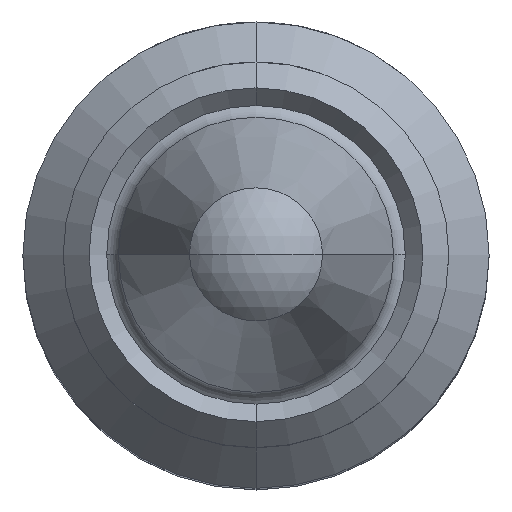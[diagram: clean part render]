
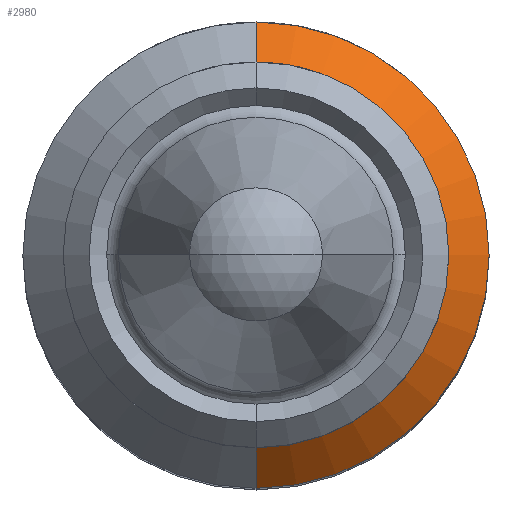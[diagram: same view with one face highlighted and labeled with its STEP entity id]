
A CAD part, top view. The second image highlights one B-rep face of the part: STEP entity #2980.
In plain terms, the highlighted conical face has half-angle 45 degrees and reference radius 2.38 mm.
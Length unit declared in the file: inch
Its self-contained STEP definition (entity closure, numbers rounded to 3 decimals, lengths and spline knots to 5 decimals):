
#1598 = AXIS2_PLACEMENT_3D ( 'NONE', #11413, #11414, #11415 ) ;
#2980 = ADVANCED_FACE ( 'NONE', ( #12846 ), #12855, .T. ) ;
#5677 = EDGE_LOOP ( 'NONE', ( #10862, #10861, #10860, #10859 ) ) ;
#5906 = VERTEX_POINT ( 'NONE', #9697 ) ;
#5988 = VERTEX_POINT ( 'NONE', #9729 ) ;
#5998 = VERTEX_POINT ( 'NONE', #9739 ) ;
#6000 = VERTEX_POINT ( 'NONE', #9741 ) ;
#7427 = EDGE_CURVE ( 'NONE', #6000, #5906, #12350, .T. ) ;
#7428 = EDGE_CURVE ( 'NONE', #5998, #5906, #12347, .T. ) ;
#7429 = EDGE_CURVE ( 'NONE', #5988, #5998, #12351, .T. ) ;
#7433 = EDGE_CURVE ( 'NONE', #5988, #6000, #12358, .T. ) ;
#9433 = AXIS2_PLACEMENT_3D ( 'NONE', #13139, #13140, #13149 ) ;
#9697 = CARTESIAN_POINT ( 'NONE',  ( 0., 0.0937, -0.062 ) ) ;
#9729 = CARTESIAN_POINT ( 'NONE',  ( 0., -0.0775, -0.0458 ) ) ;
#9739 = CARTESIAN_POINT ( 'NONE',  ( 0., -0.0937, -0.062 ) ) ;
#9741 = CARTESIAN_POINT ( 'NONE',  ( 0., 0.0775, -0.0458 ) ) ;
#10859 = ORIENTED_EDGE ( 'NONE', *, *, #7427, .F. ) ;
#10860 = ORIENTED_EDGE ( 'NONE', *, *, #7428, .T. ) ;
#10861 = ORIENTED_EDGE ( 'NONE', *, *, #7429, .T. ) ;
#10862 = ORIENTED_EDGE ( 'NONE', *, *, #7433, .F. ) ;
#11402 = CARTESIAN_POINT ( 'NONE',  ( 0., 0.0937, -0.062 ) ) ;
#11403 = DIRECTION ( 'NONE',  ( 0., 0.707, -0.707 ) ) ;
#11410 = DIRECTION ( 'NONE',  ( 0., -0.707, -0.707 ) ) ;
#11412 = CARTESIAN_POINT ( 'NONE',  ( 0., -0.0937, -0.062 ) ) ;
#11413 = CARTESIAN_POINT ( 'NONE',  ( 0., 0., -0.062 ) ) ;
#11414 = DIRECTION ( 'NONE',  ( 0., 0., 1. ) ) ;
#11415 = DIRECTION ( 'NONE',  ( 0., -1., 0. ) ) ;
#11426 = CARTESIAN_POINT ( 'NONE',  ( 0., 0., -0.0458 ) ) ;
#11427 = DIRECTION ( 'NONE',  ( 0., 0., 1. ) ) ;
#11428 = DIRECTION ( 'NONE',  ( 0., -1., 0. ) ) ;
#12347 = CIRCLE ( 'NONE', #1598, 0.0937 ) ;
#12350 = LINE ( 'NONE', #11402, #12352 ) ;
#12351 = LINE ( 'NONE', #11412, #12355 ) ;
#12352 = VECTOR ( 'NONE', #11403, 39.37008 ) ;
#12355 = VECTOR ( 'NONE', #11410, 39.37008 ) ;
#12358 = CIRCLE ( 'NONE', #12572, 0.0775 ) ;
#12572 = AXIS2_PLACEMENT_3D ( 'NONE', #11426, #11427, #11428 ) ;
#12846 = FACE_OUTER_BOUND ( 'NONE', #5677, .T. ) ;
#12855 = CONICAL_SURFACE ( 'NONE', #9433, 0.0937, 0.785 ) ;
#13139 = CARTESIAN_POINT ( 'NONE',  ( 0., 0., -0.062 ) ) ;
#13140 = DIRECTION ( 'NONE',  ( 0., 0., -1. ) ) ;
#13149 = DIRECTION ( 'NONE',  ( 0., 1., 0. ) ) ;
